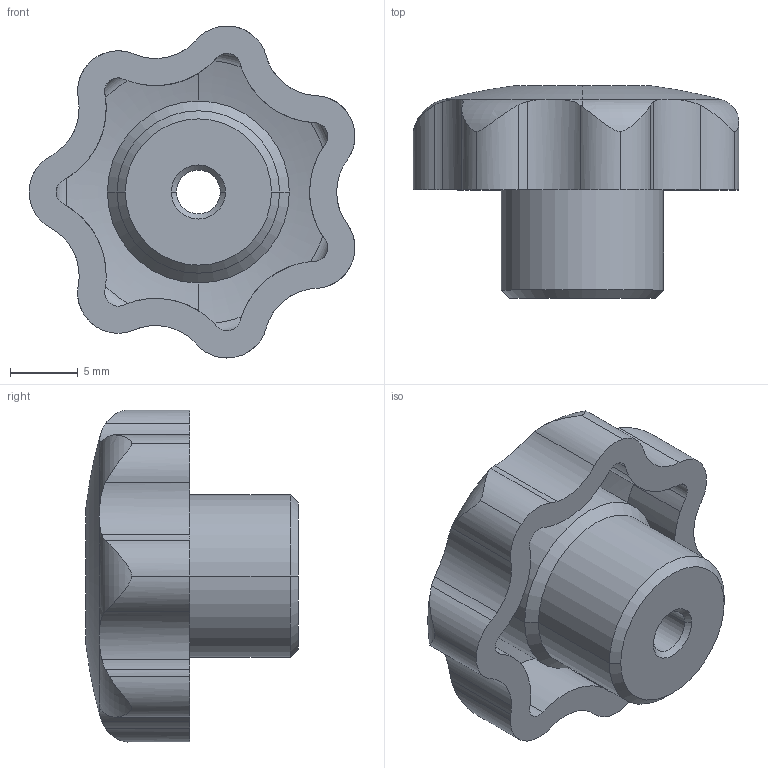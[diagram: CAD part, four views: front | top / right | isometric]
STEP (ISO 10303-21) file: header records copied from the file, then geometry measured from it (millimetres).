
FILE_DESCRIPTION(('STEP AP203'),'1');
FILE_NAME('boutet_bouton_9627.stp','2018-10-24T07:56:22',('TraceParts'),('TraceParts S.A.'),'Spatial InterOp 3D',' ',' ');
FILE_SCHEMA(('CONFIG_CONTROL_DESIGN'));
Length unit declared in the file: millimetre
Products named in the file (1): 1
Bounding box: 24.06 x 15.69 x 24.52 mm (x, y, z)
Volume: 2736.2 mm3; surface area: 2371.2 mm2
Topology: 1 solids, 1 shells, 97 faces, 270 edges, 176 vertices
Faces by surface type: cylinder 64, torus 20, cone 10, plane 3
Entity records: 3670 total; most frequent: CARTESIAN_POINT 1212, ORIENTED_EDGE 540, DIRECTION 482, EDGE_CURVE 270, AXIS2_PLACEMENT_3D 204, VERTEX_POINT 176, CIRCLE 106, EDGE_LOOP 100
